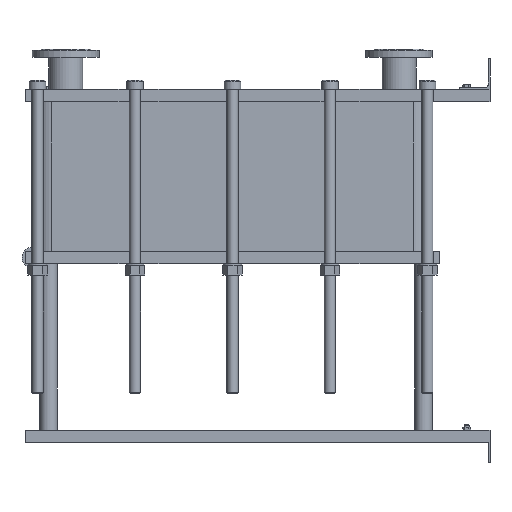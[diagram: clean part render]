
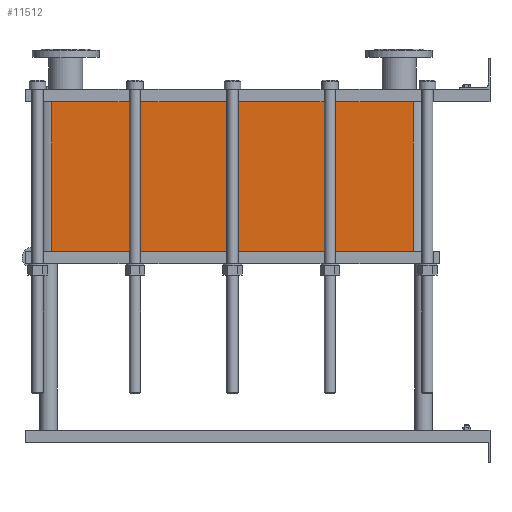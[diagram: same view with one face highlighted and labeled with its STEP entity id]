
A CAD part, left-side view. The second image highlights one B-rep face of the part: STEP entity #11512.
In plain terms, the highlighted planar face has unit normal (-1, 0, 0).
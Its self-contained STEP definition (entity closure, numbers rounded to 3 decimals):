
#1129=LINE('',#23232,#2102);
#1130=LINE('',#23236,#2103);
#1131=LINE('',#23238,#2104);
#1132=LINE('',#23239,#2105);
#2102=VECTOR('',#15887,10.);
#2103=VECTOR('',#15892,10.);
#2104=VECTOR('',#15893,10.);
#2105=VECTOR('',#15894,10.);
#3267=FACE_OUTER_BOUND('',#4093,.T.);
#4093=EDGE_LOOP('',(#10103,#10104,#10105,#10106));
#5642=VERTEX_POINT('',#23229);
#5643=VERTEX_POINT('',#23231);
#5644=VERTEX_POINT('',#23235);
#5645=VERTEX_POINT('',#23237);
#7159=EDGE_CURVE('',#5643,#5642,#1129,.T.);
#7161=EDGE_CURVE('',#5642,#5644,#1130,.T.);
#7162=EDGE_CURVE('',#5645,#5644,#1131,.T.);
#7163=EDGE_CURVE('',#5645,#5643,#1132,.T.);
#10103=ORIENTED_EDGE('',*,*,#7161,.T.);
#10104=ORIENTED_EDGE('',*,*,#7162,.F.);
#10105=ORIENTED_EDGE('',*,*,#7163,.T.);
#10106=ORIENTED_EDGE('',*,*,#7159,.T.);
#10857=PLANE('',#12751);
#11512=ADVANCED_FACE('',(#3267),#10857,.T.);
#12751=AXIS2_PLACEMENT_3D('',#23234,#15890,#15891);
#15887=DIRECTION('',(0.,0.,-1.));
#15890=DIRECTION('center_axis',(-1.,0.,0.));
#15891=DIRECTION('ref_axis',(0.,1.,0.));
#15892=DIRECTION('',(0.,-1.,0.));
#15893=DIRECTION('',(0.,0.,-1.));
#15894=DIRECTION('',(0.,1.,0.));
#23229=CARTESIAN_POINT('',(-200.,1414.,-483.));
#23231=CARTESIAN_POINT('',(-200.,1414.,0.));
#23232=CARTESIAN_POINT('',(-200.,1414.,0.));
#23234=CARTESIAN_POINT('Origin',(-200.,248.,0.));
#23235=CARTESIAN_POINT('',(-200.,248.,-483.));
#23236=CARTESIAN_POINT('',(-200.,539.5,-483.));
#23237=CARTESIAN_POINT('',(-200.,248.,0.));
#23238=CARTESIAN_POINT('',(-200.,248.,0.));
#23239=CARTESIAN_POINT('',(-200.,248.,0.));
